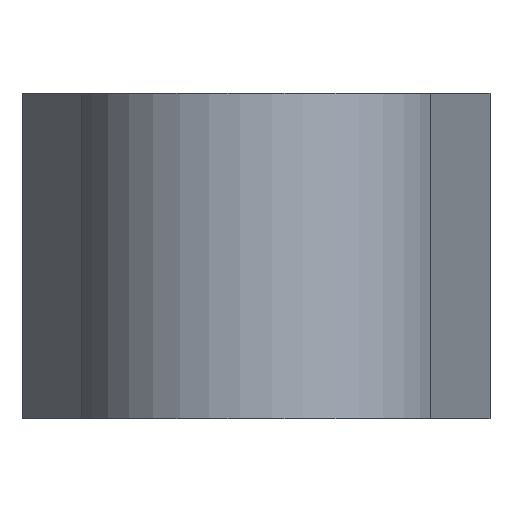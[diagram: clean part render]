
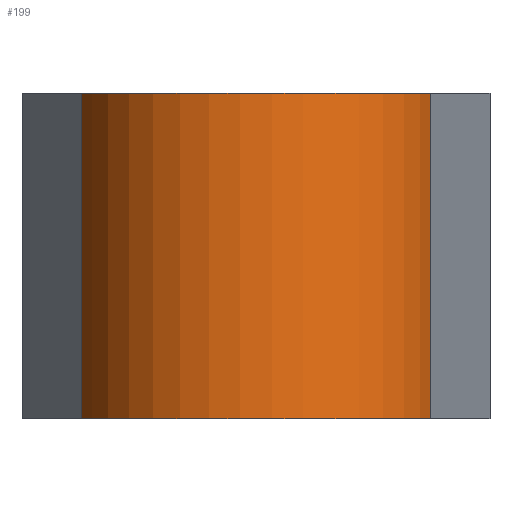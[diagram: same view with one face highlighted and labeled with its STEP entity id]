
A CAD part, left-side view. The second image highlights one B-rep face of the part: STEP entity #199.
In plain terms, the highlighted cylindrical face has radius 14 mm (diameter 28 mm), a partial arc.
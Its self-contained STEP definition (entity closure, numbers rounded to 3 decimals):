
#123=CYLINDRICAL_SURFACE('',#741,14.);
#148=CIRCLE('',#739,14.);
#149=CIRCLE('',#740,14.);
#199=ADVANCED_FACE('',(#250),#123,.T.);
#250=FACE_OUTER_BOUND('',#280,.T.);
#280=EDGE_LOOP('',(#353,#354,#355,#356));
#353=ORIENTED_EDGE('',*,*,#578,.F.);
#354=ORIENTED_EDGE('',*,*,#581,.T.);
#355=ORIENTED_EDGE('',*,*,#561,.T.);
#356=ORIENTED_EDGE('',*,*,#582,.F.);
#503=VERTEX_POINT('',#1033);
#504=VERTEX_POINT('',#1035);
#515=VERTEX_POINT('',#1069);
#516=VERTEX_POINT('',#1070);
#561=EDGE_CURVE('',#504,#503,#649,.T.);
#578=EDGE_CURVE('',#515,#516,#662,.T.);
#581=EDGE_CURVE('',#515,#504,#148,.T.);
#582=EDGE_CURVE('',#516,#503,#149,.T.);
#649=LINE('',#1034,#689);
#662=LINE('',#1068,#702);
#689=VECTOR('',#818,1.);
#702=VECTOR('',#851,1.);
#739=AXIS2_PLACEMENT_3D('',#1074,#856,#857);
#740=AXIS2_PLACEMENT_3D('',#1075,#858,#859);
#741=AXIS2_PLACEMENT_3D('',#1076,#860,#861);
#818=DIRECTION('',(0.,0.,1.));
#851=DIRECTION('',(0.,0.,1.));
#856=DIRECTION('',(0.,0.,1.));
#857=DIRECTION('',(1.,0.,0.));
#858=DIRECTION('',(0.,0.,1.));
#859=DIRECTION('',(1.,0.,0.));
#860=DIRECTION('',(0.,0.,1.));
#861=DIRECTION('',(-1.,0.,0.));
#1033=CARTESIAN_POINT('',(-3.855,-13.459,25.));
#1034=CARTESIAN_POINT('',(-3.855,-13.459,0.));
#1035=CARTESIAN_POINT('',(-3.855,-13.459,0.));
#1068=CARTESIAN_POINT('',(-3.855,13.459,0.));
#1069=CARTESIAN_POINT('',(-3.855,13.459,0.));
#1070=CARTESIAN_POINT('',(-3.855,13.459,25.));
#1074=CARTESIAN_POINT('',(0.,0.,0.));
#1075=CARTESIAN_POINT('',(0.,0.,25.));
#1076=CARTESIAN_POINT('',(0.,0.,0.));
